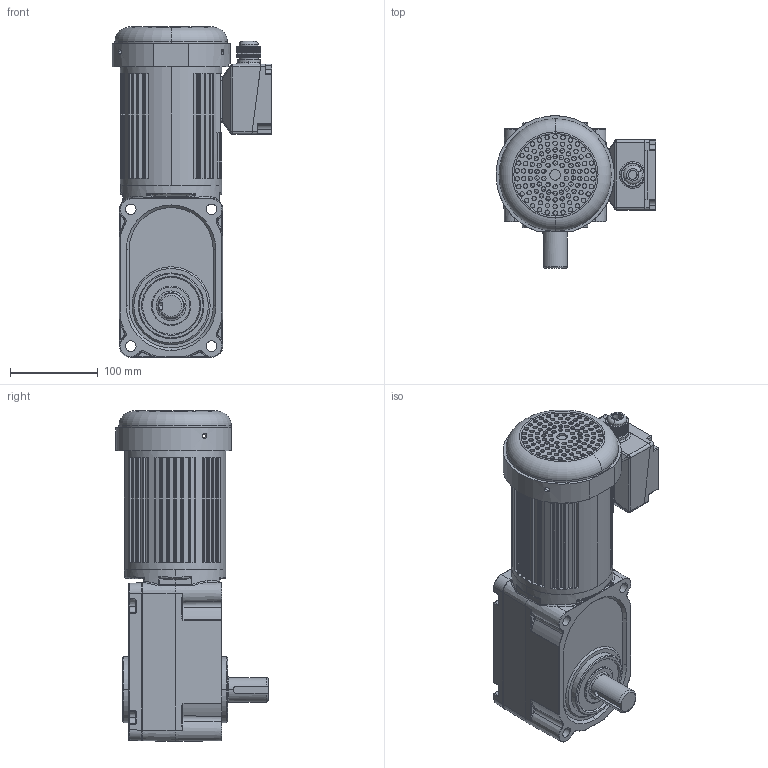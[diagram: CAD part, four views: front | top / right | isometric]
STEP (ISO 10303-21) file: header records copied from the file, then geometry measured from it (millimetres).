
FILE_DESCRIPTION (( 'STEP AP203' ), '1' );
FILE_NAME ('ZDF3-28A80K-240K-200-S3.STEP', '2020-05-05T06:33:04', ( '' ), ( '' ), 'SwSTEP 2.0', 'SolidWorks 2019', '' );
FILE_SCHEMA (( 'CONFIG_CONTROL_DESIGN' ));
Length unit declared in the file: millimetre
Products named in the file (3): 嫖萇儂; ZDF3-28A80K-240K-200-S3(B); ZDF3-28A80K-240K-200-S3
Assembly tree (2 placements, depth 2):
  ZDF3-28A80K-240K-200-S3
    ZDF3-28A80K-240K-200-S3(B)
    嫖萇儂
Bounding box: 182.35 x 173.5 x 377.44 mm (x, y, z)
Volume: 2790238.3 mm3; surface area: 465340.1 mm2
Topology: 9 solids, 9 shells, 2324 faces, 5903 edges, 3631 vertices
Faces by surface type: cylinder 1108, plane 467, bspline 368, cone 168, torus 167, sphere 46
Entity records: 95177 total; most frequent: CARTESIAN_POINT 41911, ORIENTED_EDGE 11724, DIRECTION 10403, EDGE_CURVE 5862, AXIS2_PLACEMENT_3D 4248, VERTEX_POINT 3631, EDGE_LOOP 2685, ADVANCED_FACE 2324
